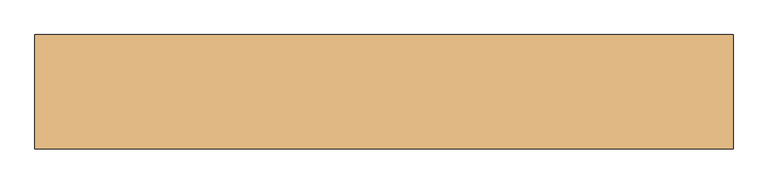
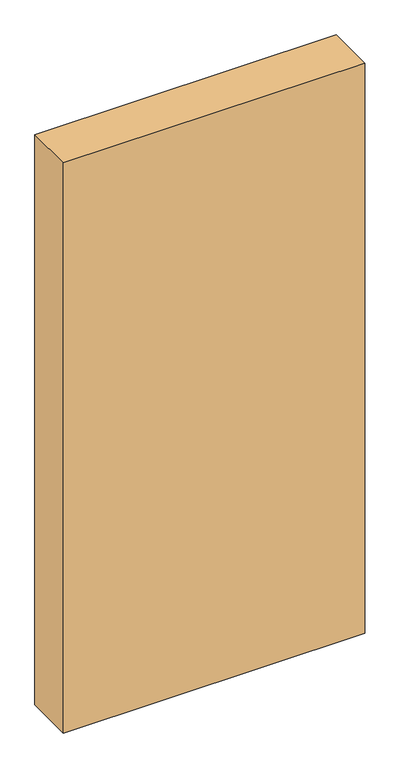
"""IFC4 building model written with IfcOpenShell, lengths in millimetres: door geometry, Dr_Проем-Простой : ДВ."""

from ifc_helpers import new_model, si_unit, frame, origin, place, context, project, spatial, polyline, outline, extrude, source, transform, mapped, element, save


def door_d7ee00cb(model_context):
    return source(origin(), model_context, "Body", "SweptSolid", [
        extrude(outline(polyline([(755.3230163, 90.0), (755.3230163, -90.0), (-344.6769837, -90.0), (-344.6769837, 90.0), (755.3230163, 90.0)])), frame((0.0, 0.0, -100.0), z_axis=(0.0, 0.0, 1.0), x_axis=(1.0, 0.0, 0.0)), (0.0, 0.0, 1.0), 2200.0),
    ])


if __name__ == "__main__":
    model = new_model("IFC4")
    model_context = context("Model", 3, world=origin())
    ifc_project = project(units=[si_unit("LENGTHUNIT", "METRE", prefix="MILLI")], contexts=[model_context])
    site = spatial("IfcSite", under=ifc_project)
    building = spatial("IfcBuilding", under=site)
    placement = place(None, origin())
    door_shape = door_d7ee00cb(model_context)
    element("IfcDoor", 1, ObjectType="Dr_Проем-Простой : ДВ", at=placement, inside=building, context=model_context, shape_type="MappedRepresentation", body=[
        mapped(door_shape, transform((0.0, 0.0, 0.0), x_axis=(1.0, 0.0, 0.0), y_axis=(0.0, 1.0, 0.0), z_axis=(0.0, 0.0, 1.0))),
    ])
    save(model, "model.ifc")
